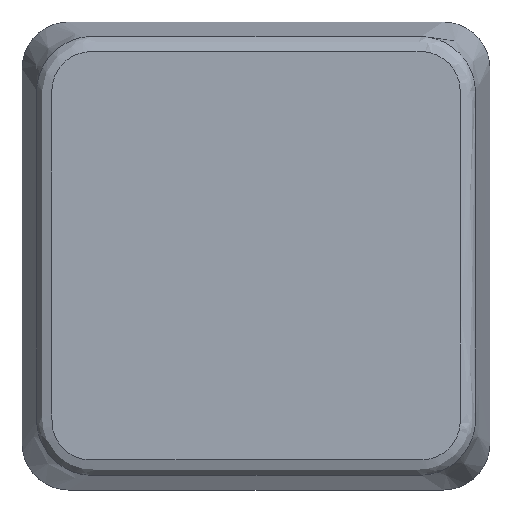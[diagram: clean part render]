
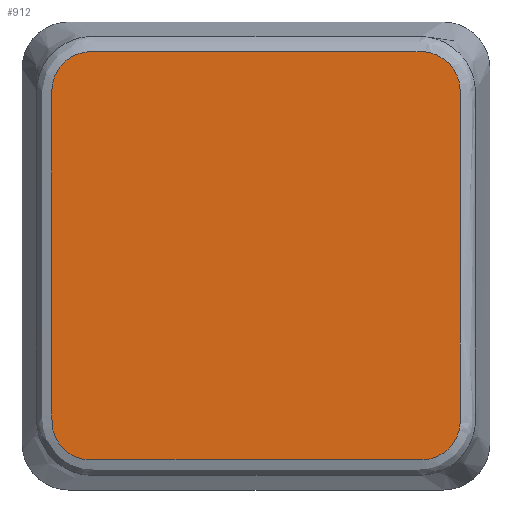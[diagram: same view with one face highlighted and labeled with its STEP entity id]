
A CAD part, top view. The second image highlights one B-rep face of the part: STEP entity #912.
In plain terms, the highlighted planar face has unit normal (0, 0, 1).
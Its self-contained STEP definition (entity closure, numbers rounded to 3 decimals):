
#15=B_SPLINE_CURVE_WITH_KNOTS('',3,(#1844,#1845,#1846,#1847,#1848,#1849,
#1850,#1851,#1852,#1853,#1854,#1855,#1856,#1857,#1858,#1859,#1860,#1861,
#1862,#1863,#1864,#1865,#1866,#1867,#1868,#1869,#1870,#1871,#1872,#1873,
#1874,#1875,#1876,#1877,#1878,#1879,#1880,#1881,#1882,#1883,#1884,#1885,
#1886,#1887,#1888,#1889,#1890,#1891,#1892,#1893,#1894,#1895,#1896,#1897,
#1898,#1899,#1900,#1901,#1902,#1903,#1904,#1905,#1906,#1907,#1908,#1909,
#1910,#1911,#1912,#1913,#1914,#1915,#1916,#1917,#1918,#1919,#1920,#1921,
#1922,#1923,#1924,#1925,#1926,#1927,#1928,#1929,#1930,#1931,#1932,#1933,
#1934,#1935,#1936,#1937,#1938,#1939,#1940,#1941,#1942,#1943),
 .UNSPECIFIED.,.T.,.F.,(4,2,1,1,1,1,1,1,1,1,1,1,2,1,1,1,1,1,1,2,1,1,1,1,
1,1,1,1,1,1,2,1,1,1,1,2,1,1,1,1,1,1,1,1,1,1,1,2,1,1,1,1,2,1,1,1,1,1,1,1,
1,1,1,1,1,1,1,1,1,1,1,1,1,1,1,1,1,1,1,1,1,1,1,1,2,1,1,1,1,4),(-4.035,
-3.964,-3.957,-3.949,-3.934,
-3.904,-3.844,-3.724,-3.484,-3.243,
-3.123,-3.063,-3.003,-2.998,
-2.992,-2.981,-2.959,-2.915,
-2.871,-2.826,-2.819,-2.811,
-2.796,-2.766,-2.706,-2.586,
-2.346,-2.105,-1.985,-1.925,
-1.865,-1.854,-1.843,-1.821,
-1.777,-1.688,-1.681,-1.673,
-1.658,-1.628,-1.568,-1.448,-1.208,
-0.967,-0.847,-0.787,-0.757,
-0.727,-0.716,-0.705,-0.683,
-0.638,-0.55,-0.542,-0.535,
-0.52,-0.49,-0.46,-0.43,
-0.309,-0.069,0.111,0.141,
0.171,0.231,0.261,0.277,
0.292,0.307,0.314,0.322,
0.352,0.382,0.389,0.393,
0.397,0.4,0.404,0.406,
0.408,0.409,0.41,0.411,
0.411,0.412,0.418,0.425,
0.438,0.465,0.518),.UNSPECIFIED.);
#66=FACE_OUTER_BOUND('',#122,.T.);
#122=EDGE_LOOP('',(#671));
#403=VERTEX_POINT('',#1842);
#493=EDGE_CURVE('',#403,#403,#15,.T.);
#671=ORIENTED_EDGE('',*,*,#493,.F.);
#861=PLANE('',#984);
#912=ADVANCED_FACE('',(#66),#861,.T.);
#984=AXIS2_PLACEMENT_3D('',#2270,#1107,#1108);
#1107=DIRECTION('center_axis',(0.,0.,1.));
#1108=DIRECTION('ref_axis',(1.,0.,0.));
#1842=CARTESIAN_POINT('',(72.305,-35.477,25.8));
#1844=CARTESIAN_POINT('Ctrl Pts',(72.305,-35.477,25.8));
#1845=CARTESIAN_POINT('Ctrl Pts',(72.457,-35.686,25.8));
#1846=CARTESIAN_POINT('Ctrl Pts',(72.543,-35.944,25.8));
#1847=CARTESIAN_POINT('Ctrl Pts',(72.543,-36.231,25.8));
#1848=CARTESIAN_POINT('Ctrl Pts',(72.543,-36.286,25.8));
#1849=CARTESIAN_POINT('Ctrl Pts',(72.543,-36.396,25.8));
#1850=CARTESIAN_POINT('Ctrl Pts',(72.543,-36.589,25.8));
#1851=CARTESIAN_POINT('Ctrl Pts',(72.543,-36.975,25.8));
#1852=CARTESIAN_POINT('Ctrl Pts',(72.543,-37.748,25.8));
#1853=CARTESIAN_POINT('Ctrl Pts',(72.543,-39.293,25.8));
#1854=CARTESIAN_POINT('Ctrl Pts',(72.543,-41.499,25.8));
#1855=CARTESIAN_POINT('Ctrl Pts',(72.543,-43.706,25.8));
#1856=CARTESIAN_POINT('Ctrl Pts',(72.543,-45.25,25.8));
#1857=CARTESIAN_POINT('Ctrl Pts',(72.543,-46.134,25.8));
#1858=CARTESIAN_POINT('Ctrl Pts',(72.543,-46.574,25.8));
#1859=CARTESIAN_POINT('Ctrl Pts',(72.543,-46.818,25.8));
#1860=CARTESIAN_POINT('Ctrl Pts',(72.542,-46.859,25.8));
#1861=CARTESIAN_POINT('Ctrl Pts',(72.536,-46.941,25.8));
#1862=CARTESIAN_POINT('Ctrl Pts',(72.514,-47.083,25.8));
#1863=CARTESIAN_POINT('Ctrl Pts',(72.429,-47.355,25.8));
#1864=CARTESIAN_POINT('Ctrl Pts',(72.197,-47.699,25.8));
#1865=CARTESIAN_POINT('Ctrl Pts',(71.786,-47.975,25.8));
#1866=CARTESIAN_POINT('Ctrl Pts',(71.459,-48.043,25.8));
#1867=CARTESIAN_POINT('Ctrl Pts',(71.269,-48.043,25.8));
#1868=CARTESIAN_POINT('Ctrl Pts',(71.214,-48.043,25.8));
#1869=CARTESIAN_POINT('Ctrl Pts',(71.104,-48.043,25.8));
#1870=CARTESIAN_POINT('Ctrl Pts',(70.911,-48.043,25.8));
#1871=CARTESIAN_POINT('Ctrl Pts',(70.525,-48.043,25.8));
#1872=CARTESIAN_POINT('Ctrl Pts',(69.752,-48.043,25.8));
#1873=CARTESIAN_POINT('Ctrl Pts',(68.207,-48.043,25.8));
#1874=CARTESIAN_POINT('Ctrl Pts',(66.001,-48.043,25.8));
#1875=CARTESIAN_POINT('Ctrl Pts',(63.794,-48.043,25.8));
#1876=CARTESIAN_POINT('Ctrl Pts',(62.25,-48.043,25.8));
#1877=CARTESIAN_POINT('Ctrl Pts',(61.366,-48.043,25.8));
#1878=CARTESIAN_POINT('Ctrl Pts',(60.926,-48.043,25.8));
#1879=CARTESIAN_POINT('Ctrl Pts',(60.662,-48.043,25.8));
#1880=CARTESIAN_POINT('Ctrl Pts',(60.579,-48.039,25.8));
#1881=CARTESIAN_POINT('Ctrl Pts',(60.417,-48.014,25.8));
#1882=CARTESIAN_POINT('Ctrl Pts',(60.145,-47.928,25.8));
#1883=CARTESIAN_POINT('Ctrl Pts',(59.664,-47.605,25.8));
#1884=CARTESIAN_POINT('Ctrl Pts',(59.456,-47.123,25.8));
#1885=CARTESIAN_POINT('Ctrl Pts',(59.456,-46.77,25.8));
#1886=CARTESIAN_POINT('Ctrl Pts',(59.456,-46.715,25.8));
#1887=CARTESIAN_POINT('Ctrl Pts',(59.456,-46.604,25.8));
#1888=CARTESIAN_POINT('Ctrl Pts',(59.456,-46.411,25.8));
#1889=CARTESIAN_POINT('Ctrl Pts',(59.456,-46.025,25.8));
#1890=CARTESIAN_POINT('Ctrl Pts',(59.457,-45.252,25.8));
#1891=CARTESIAN_POINT('Ctrl Pts',(59.457,-43.707,25.8));
#1892=CARTESIAN_POINT('Ctrl Pts',(59.457,-41.5,25.8));
#1893=CARTESIAN_POINT('Ctrl Pts',(59.457,-39.293,25.8));
#1894=CARTESIAN_POINT('Ctrl Pts',(59.457,-37.748,25.8));
#1895=CARTESIAN_POINT('Ctrl Pts',(59.457,-36.975,25.8));
#1896=CARTESIAN_POINT('Ctrl Pts',(59.457,-36.534,25.8));
#1897=CARTESIAN_POINT('Ctrl Pts',(59.457,-36.313,25.8));
#1898=CARTESIAN_POINT('Ctrl Pts',(59.457,-36.162,25.8));
#1899=CARTESIAN_POINT('Ctrl Pts',(59.461,-36.081,25.8));
#1900=CARTESIAN_POINT('Ctrl Pts',(59.486,-35.92,25.8));
#1901=CARTESIAN_POINT('Ctrl Pts',(59.571,-35.646,25.8));
#1902=CARTESIAN_POINT('Ctrl Pts',(59.895,-35.164,25.8));
#1903=CARTESIAN_POINT('Ctrl Pts',(60.377,-34.956,25.8));
#1904=CARTESIAN_POINT('Ctrl Pts',(60.73,-34.957,25.8));
#1905=CARTESIAN_POINT('Ctrl Pts',(60.785,-34.956,25.8));
#1906=CARTESIAN_POINT('Ctrl Pts',(60.896,-34.957,25.8));
#1907=CARTESIAN_POINT('Ctrl Pts',(61.089,-34.957,25.8));
#1908=CARTESIAN_POINT('Ctrl Pts',(61.365,-34.957,25.8));
#1909=CARTESIAN_POINT('Ctrl Pts',(61.696,-34.957,25.8));
#1910=CARTESIAN_POINT('Ctrl Pts',(62.358,-34.957,25.8));
#1911=CARTESIAN_POINT('Ctrl Pts',(63.793,-34.957,25.8));
#1912=CARTESIAN_POINT('Ctrl Pts',(65.779,-34.957,25.8));
#1913=CARTESIAN_POINT('Ctrl Pts',(67.435,-34.957,25.8));
#1914=CARTESIAN_POINT('Ctrl Pts',(68.317,-34.957,25.8));
#1915=CARTESIAN_POINT('Ctrl Pts',(68.759,-34.957,25.8));
#1916=CARTESIAN_POINT('Ctrl Pts',(69.2,-34.957,25.8));
#1917=CARTESIAN_POINT('Ctrl Pts',(69.587,-34.957,25.8));
#1918=CARTESIAN_POINT('Ctrl Pts',(69.807,-34.957,25.8));
#1919=CARTESIAN_POINT('Ctrl Pts',(69.973,-34.957,25.8));
#1920=CARTESIAN_POINT('Ctrl Pts',(70.111,-34.957,25.8));
#1921=CARTESIAN_POINT('Ctrl Pts',(70.221,-34.957,25.8));
#1922=CARTESIAN_POINT('Ctrl Pts',(70.387,-34.957,25.8));
#1923=CARTESIAN_POINT('Ctrl Pts',(70.635,-34.957,25.8));
#1924=CARTESIAN_POINT('Ctrl Pts',(70.883,-34.957,25.8));
#1925=CARTESIAN_POINT('Ctrl Pts',(71.035,-34.957,25.8));
#1926=CARTESIAN_POINT('Ctrl Pts',(71.09,-34.957,25.8));
#1927=CARTESIAN_POINT('Ctrl Pts',(71.132,-34.957,25.8));
#1928=CARTESIAN_POINT('Ctrl Pts',(71.173,-34.957,25.8));
#1929=CARTESIAN_POINT('Ctrl Pts',(71.207,-34.957,25.8));
#1930=CARTESIAN_POINT('Ctrl Pts',(71.235,-34.957,25.8));
#1931=CARTESIAN_POINT('Ctrl Pts',(71.252,-34.957,25.8));
#1932=CARTESIAN_POINT('Ctrl Pts',(71.266,-34.957,25.8));
#1933=CARTESIAN_POINT('Ctrl Pts',(71.276,-34.957,25.8));
#1934=CARTESIAN_POINT('Ctrl Pts',(71.285,-34.957,25.8));
#1935=CARTESIAN_POINT('Ctrl Pts',(71.292,-34.957,25.8));
#1936=CARTESIAN_POINT('Ctrl Pts',(71.295,-34.957,25.8));
#1937=CARTESIAN_POINT('Ctrl Pts',(71.322,-34.957,25.8));
#1938=CARTESIAN_POINT('Ctrl Pts',(71.371,-34.958,25.8));
#1939=CARTESIAN_POINT('Ctrl Pts',(71.469,-34.967,25.8));
#1940=CARTESIAN_POINT('Ctrl Pts',(71.638,-34.999,25.8));
#1941=CARTESIAN_POINT('Ctrl Pts',(71.961,-35.121,25.8));
#1942=CARTESIAN_POINT('Ctrl Pts',(72.19,-35.318,25.8));
#1943=CARTESIAN_POINT('Ctrl Pts',(72.305,-35.477,25.8));
#2270=CARTESIAN_POINT('Origin',(66.409,-40.909,25.8));
